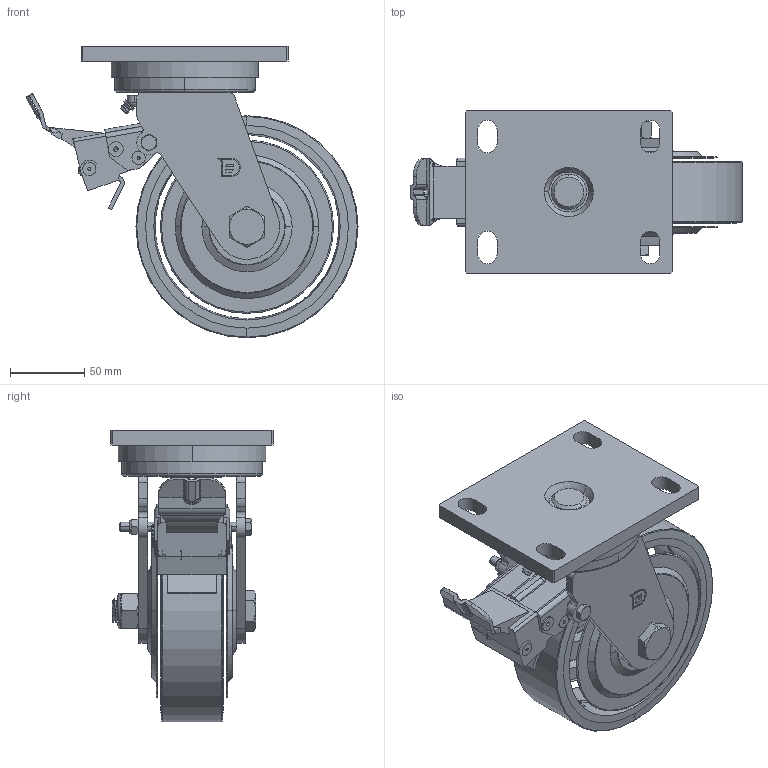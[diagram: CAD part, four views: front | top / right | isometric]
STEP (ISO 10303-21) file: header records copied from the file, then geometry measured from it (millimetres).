
FILE_DESCRIPTION((''),'2;1');
FILE_NAME('PRT0007','2025-04-02T16:35:22',('Administrator'),(''),'CREO PARAMETRIC BY PTC INC, 2022484','CREO PARAMETRIC BY PTC INC, 2022484','');
FILE_SCHEMA(('CONFIG_CONTROL_DESIGN','GEOMETRIC_VALIDATION_PROPERTIES_MIM'));
Length unit declared in the file: millimetre
Products named in the file (1): PRT0007
Bounding box: 224.3 x 110 x 197 mm (x, y, z)
Surface area: 176197.1 mm2 (no closed solid volume)
Topology: 0 solids, 45 shells, 306 faces, 1100 edges, 828 vertices
Faces by surface type: plane 140, cylinder 73, cone 54, torus 29, bspline 10
Entity records: 16233 total; most frequent: CARTESIAN_POINT 4863, DIRECTION 1878, ORIENTED_EDGE 1672, EDGE_CURVE 1098, VERTEX_POINT 828, AXIS2_PLACEMENT_3D 709, VECTOR 460, LINE 460
